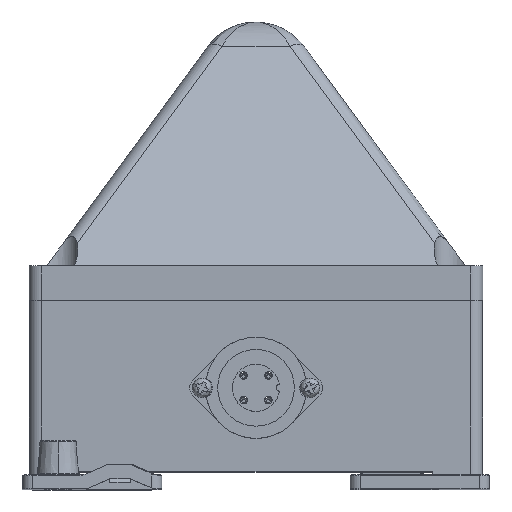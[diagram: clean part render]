
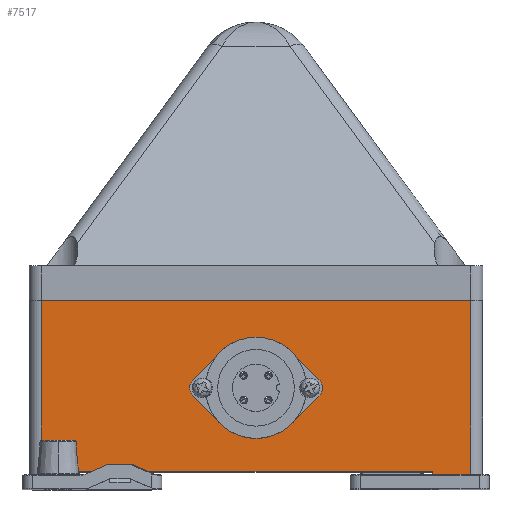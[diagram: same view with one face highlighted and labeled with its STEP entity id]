
A CAD part, top view. The second image highlights one B-rep face of the part: STEP entity #7517.
In plain terms, the highlighted planar face has unit normal (0, 0, 1).
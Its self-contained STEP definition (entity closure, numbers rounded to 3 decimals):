
#7496 = EDGE_CURVE ( 'NONE', #7528, #7662, #14219, .T. ) ;
#7509 = ORIENTED_EDGE ( 'NONE', *, *, #7582, .T. ) ;
#7510 = EDGE_CURVE ( 'NONE', #7579, #7526, #14082, .T. ) ;
#7514 = EDGE_CURVE ( 'NONE', #7643, #7662, #14136, .T. ) ;
#7515 = VERTEX_POINT ( 'NONE', #14150 ) ;
#7516 = VERTEX_POINT ( 'NONE', #14138 ) ;
#7517 = ADVANCED_FACE ( 'NONE', ( #14137, #14144 ), #14139, .F. ) ;
#7518 = ORIENTED_EDGE ( 'NONE', *, *, #9849, .F. ) ;
#7520 = EDGE_CURVE ( 'NONE', #7516, #7515, #14263, .T. ) ;
#7521 = ORIENTED_EDGE ( 'NONE', *, *, #7522, .F. ) ;
#7522 = EDGE_CURVE ( 'NONE', #7640, #7528, #14254, .T. ) ;
#7523 = ORIENTED_EDGE ( 'NONE', *, *, #7520, .F. ) ;
#7524 = EDGE_LOOP ( 'NONE', ( #7527, #7525, #7521, #7509, #9845, #9848, #7518, #9843 ) ) ;
#7525 = ORIENTED_EDGE ( 'NONE', *, *, #7496, .F. ) ;
#7526 = VERTEX_POINT ( 'NONE', #14248 ) ;
#7527 = ORIENTED_EDGE ( 'NONE', *, *, #7514, .T. ) ;
#7528 = VERTEX_POINT ( 'NONE', #14262 ) ;
#7579 = VERTEX_POINT ( 'NONE', #14344 ) ;
#7582 = EDGE_CURVE ( 'NONE', #7640, #7579, #14335, .T. ) ;
#7640 = VERTEX_POINT ( 'NONE', #14533 ) ;
#7643 = VERTEX_POINT ( 'NONE', #14532 ) ;
#7647 = EDGE_CURVE ( 'NONE', #7648, #7643, #14707, .T. ) ;
#7648 = VERTEX_POINT ( 'NONE', #14669 ) ;
#7659 = EDGE_LOOP ( 'NONE', ( #7665, #7523 ) ) ;
#7662 = VERTEX_POINT ( 'NONE', #14664 ) ;
#7663 = EDGE_CURVE ( 'NONE', #7515, #7516, #14604, .T. ) ;
#7665 = ORIENTED_EDGE ( 'NONE', *, *, #7663, .F. ) ;
#9843 = ORIENTED_EDGE ( 'NONE', *, *, #7647, .T. ) ;
#9844 = VERTEX_POINT ( 'NONE', #20628 ) ;
#9845 = ORIENTED_EDGE ( 'NONE', *, *, #7510, .T. ) ;
#9846 = EDGE_CURVE ( 'NONE', #9844, #7526, #20195, .T. ) ;
#9848 = ORIENTED_EDGE ( 'NONE', *, *, #9846, .F. ) ;
#9849 = EDGE_CURVE ( 'NONE', #7648, #9844, #20472, .T. ) ;
#14082 = LINE ( 'NONE', #14142, #14141 ) ;
#14084 = DIRECTION ( 'NONE',  ( 0., -1., 0. ) ) ;
#14085 = VECTOR ( 'NONE', #14084, 1000. ) ;
#14086 = CARTESIAN_POINT ( 'NONE',  ( -50.5, 1., 65. ) ) ;
#14129 = AXIS2_PLACEMENT_3D ( 'NONE', #14261, #14131, #14253 ) ;
#14131 = DIRECTION ( 'NONE',  ( 0., 0., 1. ) ) ;
#14134 = DIRECTION ( 'NONE',  ( 1., 0., 0. ) ) ;
#14135 = VECTOR ( 'NONE', #14134, 1000. ) ;
#14136 = LINE ( 'NONE', #14157, #14135 ) ;
#14137 = FACE_BOUND ( 'NONE', #7659, .T. ) ;
#14138 = CARTESIAN_POINT ( 'NONE',  ( -10.25, 25., 65. ) ) ;
#14139 = PLANE ( 'NONE',  #14158 ) ;
#14140 = DIRECTION ( 'NONE',  ( 1., 0., 0. ) ) ;
#14141 = VECTOR ( 'NONE', #14140, 1000. ) ;
#14142 = CARTESIAN_POINT ( 'NONE',  ( -61.5, 0., 65. ) ) ;
#14144 = FACE_OUTER_BOUND ( 'NONE', #7524, .T. ) ;
#14150 = CARTESIAN_POINT ( 'NONE',  ( 10.25, 25., 65. ) ) ;
#14157 = CARTESIAN_POINT ( 'NONE',  ( -61.5, 0., 65. ) ) ;
#14158 = AXIS2_PLACEMENT_3D ( 'NONE', #14260, #14259, #14258 ) ;
#14219 = LINE ( 'NONE', #14086, #14085 ) ;
#14248 = CARTESIAN_POINT ( 'NONE',  ( 61.5, 0., 65. ) ) ;
#14249 = DIRECTION ( 'NONE',  ( -1., 0., 0. ) ) ;
#14250 = VECTOR ( 'NONE', #14249, 1000. ) ;
#14251 = CARTESIAN_POINT ( 'NONE',  ( -50.5, 1., 65. ) ) ;
#14253 = DIRECTION ( 'NONE',  ( 1., 0., 0. ) ) ;
#14254 = LINE ( 'NONE', #14251, #14250 ) ;
#14258 = DIRECTION ( 'NONE',  ( -1., 0., 0. ) ) ;
#14259 = DIRECTION ( 'NONE',  ( 0., 0., -1. ) ) ;
#14260 = CARTESIAN_POINT ( 'NONE',  ( -61.5, 50., 65. ) ) ;
#14261 = CARTESIAN_POINT ( 'NONE',  ( 0., 25., 65. ) ) ;
#14262 = CARTESIAN_POINT ( 'NONE',  ( -50.5, 1., 65. ) ) ;
#14263 = CIRCLE ( 'NONE', #14129, 10.25 ) ;
#14335 = LINE ( 'NONE', #14341, #14397 ) ;
#14341 = CARTESIAN_POINT ( 'NONE',  ( 50.5, 1., 65. ) ) ;
#14344 = CARTESIAN_POINT ( 'NONE',  ( 50.5, 0., 65. ) ) ;
#14396 = DIRECTION ( 'NONE',  ( 0., -1., 0. ) ) ;
#14397 = VECTOR ( 'NONE', #14396, 1000. ) ;
#14527 = CARTESIAN_POINT ( 'NONE',  ( -61.5, 50., 65. ) ) ;
#14532 = CARTESIAN_POINT ( 'NONE',  ( -61.5, 0., 65. ) ) ;
#14533 = CARTESIAN_POINT ( 'NONE',  ( 50.5, 1., 65. ) ) ;
#14596 = DIRECTION ( 'NONE',  ( 1., 0., 0. ) ) ;
#14597 = DIRECTION ( 'NONE',  ( 0., 0., 1. ) ) ;
#14598 = CARTESIAN_POINT ( 'NONE',  ( 0., 25., 65. ) ) ;
#14604 = CIRCLE ( 'NONE', #14607, 10.25 ) ;
#14607 = AXIS2_PLACEMENT_3D ( 'NONE', #14598, #14597, #14596 ) ;
#14664 = CARTESIAN_POINT ( 'NONE',  ( -50.5, 0., 65. ) ) ;
#14669 = CARTESIAN_POINT ( 'NONE',  ( -61.5, 50., 65. ) ) ;
#14705 = DIRECTION ( 'NONE',  ( 0., -1., 0. ) ) ;
#14706 = VECTOR ( 'NONE', #14705, 1000. ) ;
#14707 = LINE ( 'NONE', #14527, #14706 ) ;
#20188 = CARTESIAN_POINT ( 'NONE',  ( 61.5, 50., 65. ) ) ;
#20190 = DIRECTION ( 'NONE',  ( 0., -1., 0. ) ) ;
#20191 = VECTOR ( 'NONE', #20190, 1000. ) ;
#20195 = LINE ( 'NONE', #20188, #20191 ) ;
#20471 = CARTESIAN_POINT ( 'NONE',  ( -61.5, 50., 65. ) ) ;
#20472 = LINE ( 'NONE', #20471, #20614 ) ;
#20604 = DIRECTION ( 'NONE',  ( 1., 0., 0. ) ) ;
#20614 = VECTOR ( 'NONE', #20604, 1000. ) ;
#20628 = CARTESIAN_POINT ( 'NONE',  ( 61.5, 50., 65. ) ) ;
